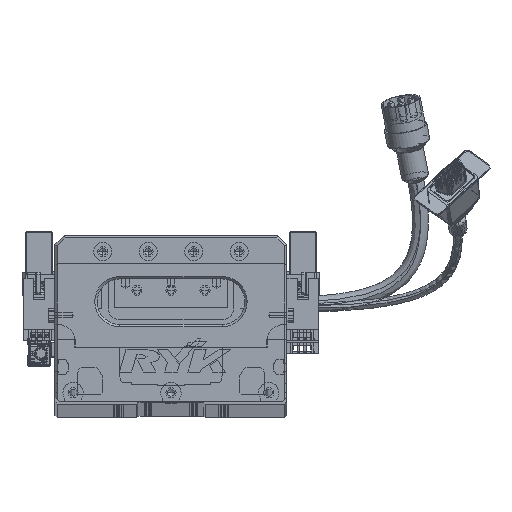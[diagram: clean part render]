
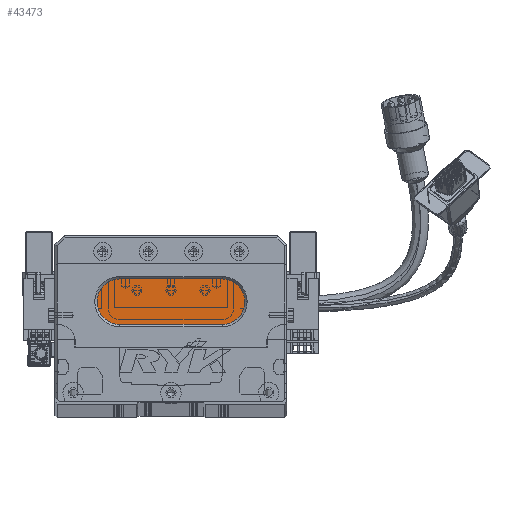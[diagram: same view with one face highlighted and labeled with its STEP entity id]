
A CAD part, top view. The second image highlights one B-rep face of the part: STEP entity #43473.
In plain terms, the highlighted planar face has unit normal (0, 0, 1) as drawn and (0, 0, -1) by its records, which use the part's own axes.
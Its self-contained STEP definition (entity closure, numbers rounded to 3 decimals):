
#460 = CARTESIAN_POINT ( 'NONE',  ( 73.5, 44., 13. ) ) ;
#3346 = CARTESIAN_POINT ( 'NONE',  ( 73.5, 54., 13. ) ) ;
#5259 = EDGE_CURVE ( 'NONE', #9012, #39274, #23497, .T. ) ;
#7630 = EDGE_CURVE ( 'NONE', #32913, #35662, #83602, .T. ) ;
#9012 = VERTEX_POINT ( 'NONE', #67923 ) ;
#10424 = DIRECTION ( 'NONE',  ( 1., 0., 0. ) ) ;
#12038 = ORIENTED_EDGE ( 'NONE', *, *, #5259, .T. ) ;
#13467 = ORIENTED_EDGE ( 'NONE', *, *, #7630, .T. ) ;
#14483 = CARTESIAN_POINT ( 'NONE',  ( 28.5, 44., 13. ) ) ;
#14743 = DIRECTION ( 'NONE',  ( -1., 0., 0. ) ) ;
#16130 = DIRECTION ( 'NONE',  ( -1., 0., 0. ) ) ;
#17197 = EDGE_CURVE ( 'NONE', #39274, #32913, #66904, .T. ) ;
#17930 = FACE_OUTER_BOUND ( 'NONE', #65353, .T. ) ;
#18053 = CARTESIAN_POINT ( 'NONE',  ( 73.5, 44., 13. ) ) ;
#19010 = PLANE ( 'NONE',  #50530 ) ;
#20520 = AXIS2_PLACEMENT_3D ( 'NONE', #460, #65898, #21653 ) ;
#21653 = DIRECTION ( 'NONE',  ( -1., 0., 0. ) ) ;
#21790 = DIRECTION ( 'NONE',  ( 0., 0., -1. ) ) ;
#23497 = CIRCLE ( 'NONE', #70088, 10. ) ;
#24410 = CARTESIAN_POINT ( 'NONE',  ( 73.5, 34., 13. ) ) ;
#24921 = EDGE_CURVE ( 'NONE', #71851, #9012, #94381, .T. ) ;
#29831 = DIRECTION ( 'NONE',  ( 0., 0., -1. ) ) ;
#31535 = ORIENTED_EDGE ( 'NONE', *, *, #93267, .T. ) ;
#32913 = VERTEX_POINT ( 'NONE', #95069 ) ;
#34432 = ORIENTED_EDGE ( 'NONE', *, *, #24921, .T. ) ;
#35662 = VERTEX_POINT ( 'NONE', #24410 ) ;
#39274 = VERTEX_POINT ( 'NONE', #74067 ) ;
#43473 = ADVANCED_FACE ( 'NONE', ( #17930 ), #19010, .T. ) ;
#45929 = CARTESIAN_POINT ( 'NONE',  ( 73.5, 34., 13. ) ) ;
#50530 = AXIS2_PLACEMENT_3D ( 'NONE', #18053, #91793, #76760 ) ;
#51345 = DIRECTION ( 'NONE',  ( -1., 0., 0. ) ) ;
#61939 = ORIENTED_EDGE ( 'NONE', *, *, #17197, .T. ) ;
#64691 = AXIS2_PLACEMENT_3D ( 'NONE', #65722, #21790, #14743 ) ;
#65353 = EDGE_LOOP ( 'NONE', ( #13467, #31535, #34432, #12038, #61939 ) ) ;
#65722 = CARTESIAN_POINT ( 'NONE',  ( 28.5, 44., 13. ) ) ;
#65898 = DIRECTION ( 'NONE',  ( 0., 0., -1. ) ) ;
#66904 = LINE ( 'NONE', #3346, #88677 ) ;
#67923 = CARTESIAN_POINT ( 'NONE',  ( 18.5, 44., 13. ) ) ;
#70088 = AXIS2_PLACEMENT_3D ( 'NONE', #14483, #29831, #51345 ) ;
#71395 = LINE ( 'NONE', #45929, #75960 ) ;
#71851 = VERTEX_POINT ( 'NONE', #92839 ) ;
#74067 = CARTESIAN_POINT ( 'NONE',  ( 28.5, 54., 13. ) ) ;
#75960 = VECTOR ( 'NONE', #16130, 1000. ) ;
#76760 = DIRECTION ( 'NONE',  ( -1., 0., 0. ) ) ;
#83602 = CIRCLE ( 'NONE', #20520, 10. ) ;
#88677 = VECTOR ( 'NONE', #10424, 1000. ) ;
#91793 = DIRECTION ( 'NONE',  ( 0., 0., -1. ) ) ;
#92839 = CARTESIAN_POINT ( 'NONE',  ( 28.5, 34., 13. ) ) ;
#93267 = EDGE_CURVE ( 'NONE', #35662, #71851, #71395, .T. ) ;
#94381 = CIRCLE ( 'NONE', #64691, 10. ) ;
#95069 = CARTESIAN_POINT ( 'NONE',  ( 73.5, 54., 13. ) ) ;
